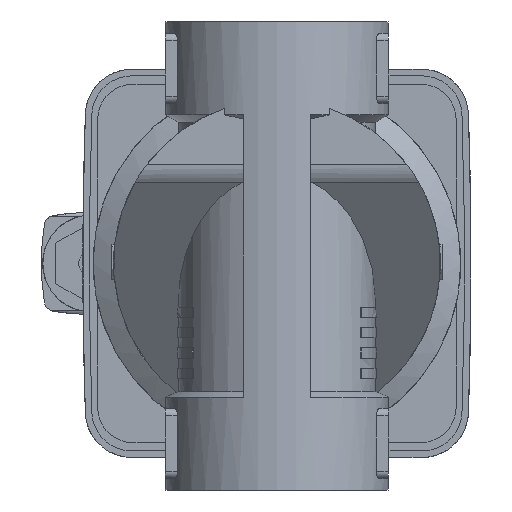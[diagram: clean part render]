
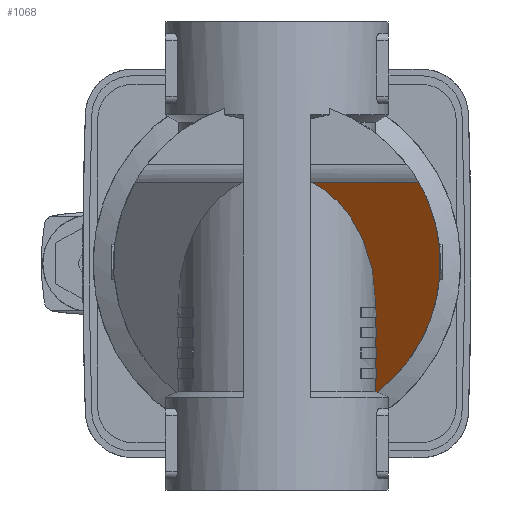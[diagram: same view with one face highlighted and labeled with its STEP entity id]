
A CAD part, front view. The second image highlights one B-rep face of the part: STEP entity #1068.
In plain terms, the highlighted planar face has unit normal (0, -0.79, -0.613) as drawn and (0.613, -0.79, 0) by its records, which use the part's own axes.
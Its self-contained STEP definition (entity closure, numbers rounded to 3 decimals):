
#1068 = ADVANCED_FACE( '', ( #2255 ), #2256, .T. );
#2255 = FACE_OUTER_BOUND( '', #3549, .T. );
#2256 = PLANE( '', #3550 );
#3549 = EDGE_LOOP( '', ( #6553, #6554, #6555, #6556 ) );
#3550 = AXIS2_PLACEMENT_3D( '', #6557, #6558, #6559 );
#6553 = ORIENTED_EDGE( '', *, *, #7856, .F. );
#6554 = ORIENTED_EDGE( '', *, *, #8567, .F. );
#6555 = ORIENTED_EDGE( '', *, *, #8689, .T. );
#6556 = ORIENTED_EDGE( '', *, *, #8984, .T. );
#6557 = CARTESIAN_POINT( '', ( 43., 25.5, 99. ) );
#6558 = DIRECTION( '', ( 0.613, -0.79, 0. ) );
#6559 = DIRECTION( '', ( 0.79, 0.613, 0. ) );
#7856 = EDGE_CURVE( '', #9445, #9447, #9448, .T. );
#8567 = EDGE_CURVE( '', #10592, #9445, #10594, .F. );
#8689 = EDGE_CURVE( '', #10592, #10775, #10777, .T. );
#8984 = EDGE_CURVE( '', #10775, #9447, #11160, .F. );
#9445 = VERTEX_POINT( '', #11809 );
#9447 = VERTEX_POINT( '', #11812 );
#9448 = LINE( '', #11813, #11814 );
#10592 = VERTEX_POINT( '', #13777 );
#10594 = ELLIPSE( '', #13786, 55.697, 44. );
#10775 = VERTEX_POINT( '', #14071 );
#10777 = LINE( '', #14076, #14077 );
#11160 = ELLIPSE( '', #14638, 43.221, 26.5 );
#11809 = CARTESIAN_POINT( '', ( 35.125, 19.388, 26.5 ) );
#11812 = CARTESIAN_POINT( '', ( 10.144, 0., 26.5 ) );
#11813 = CARTESIAN_POINT( '', ( 43., 25.5, 26.5 ) );
#11814 = VECTOR( '', #15151, 1000. );
#13777 = CARTESIAN_POINT( '', ( -21.835, -24.82, 38.2 ) );
#13786 = AXIS2_PLACEMENT_3D( '', #15970, #15971, #15972 );
#14071 = CARTESIAN_POINT( '', ( -21.835, -24.82, 9.286 ) );
#14076 = CARTESIAN_POINT( '', ( -21.835, -24.82, 99. ) );
#14077 = VECTOR( '', #16135, 1000. );
#14638 = AXIS2_PLACEMENT_3D( '', #16433, #16434, #16435 );
#15151 = DIRECTION( '', ( -0.79, -0.613, 0. ) );
#15970 = CARTESIAN_POINT( '', ( 0., -7.873, 0. ) );
#15971 = DIRECTION( '', ( 0.613, -0.79, 0. ) );
#15972 = DIRECTION( '', ( 0.79, 0.613, 0. ) );
#16135 = DIRECTION( '', ( 0., 0., -1. ) );
#16433 = CARTESIAN_POINT( '', ( 10.144, 0., 0. ) );
#16434 = DIRECTION( '', ( 0.613, -0.79, 0. ) );
#16435 = DIRECTION( '', ( -0.79, -0.613, 0. ) );
